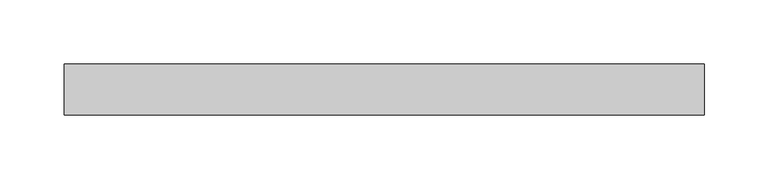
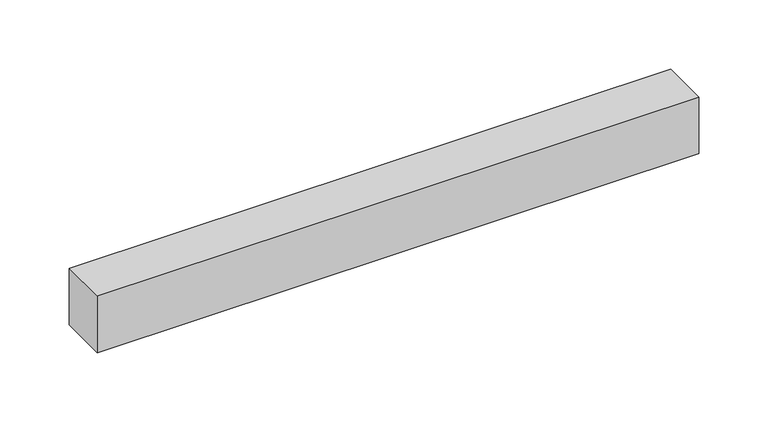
"""IFC4 building model written with IfcOpenShell, lengths in millimetres: light fixture geometry, GENILED_Светильник светодиодный_Line Standart : Line Standart 500x40x50 10Вт Опал."""

from ifc_helpers import new_model, si_unit, origin, origin_with_axes, place, context, project, spatial, polyline, outline, extrude, faceted_brep, source, transform, mapped, element, save


def light_fixture_7e128818(model_context):
    return source(origin(), model_context, "Body", "SolidModel", [
        faceted_brep([(250.0, 20.0, 50.0), (-250.0, 20.0, 50.0), (-250.0, -20.0, 50.0), (250.0, -20.0, 50.0), (248.0, 18.0, 5.0), (248.0, -18.0, 5.0), (-248.0, -18.0, 5.0), (-248.0, 18.0, 5.0), (250.0, 20.0, 0.0), (250.0, -20.0, 0.0), (-250.0, -20.0, 0.0), (-250.0, 20.0, 0.0), (248.0, 18.0, 0.0), (-248.0, 18.0, 0.0), (-248.0, -18.0, 0.0), (248.0, -18.0, 0.0)], [[[0, 1, 2, 3]], [[4, 5, 6, 7]], [[8, 9, 10, 11], [12, 13, 14, 15]], [[1, 0, 8, 11]], [[2, 1, 11, 10]], [[3, 2, 10, 9]], [[0, 3, 9, 8]], [[12, 15, 5, 4]], [[15, 14, 6, 5]], [[14, 13, 7, 6]], [[13, 12, 4, 7]]]),
        extrude(outline(polyline([(248.0, 18.0), (248.0, -18.0), (-248.0, -18.0), (-248.0, 18.0), (248.0, 18.0)])), origin_with_axes(), (0.0, 0.0, 1.0), 5.0),
    ])


if __name__ == "__main__":
    model = new_model("IFC4")
    model_context = context("Model", 3, world=origin())
    ifc_project = project(units=[si_unit("LENGTHUNIT", "METRE", prefix="MILLI")], contexts=[model_context])
    site = spatial("IfcSite", under=ifc_project)
    building = spatial("IfcBuilding", under=site)
    placement = place(None, origin())
    light_fixture_shape = light_fixture_7e128818(model_context)
    element("IfcLightFixture", 1, ObjectType="GENILED_Светильник светодиодный_Line Standart : Line Standart 500x40x50 10Вт Опал", at=placement, inside=building, context=model_context, shape_type="MappedRepresentation", body=[
        mapped(light_fixture_shape, transform((0.0, 0.0, 0.0), x_axis=(1.0, 0.0, 0.0), y_axis=(0.0, 1.0, 0.0), z_axis=(0.0, 0.0, 1.0))),
    ])
    save(model, "model.ifc")
